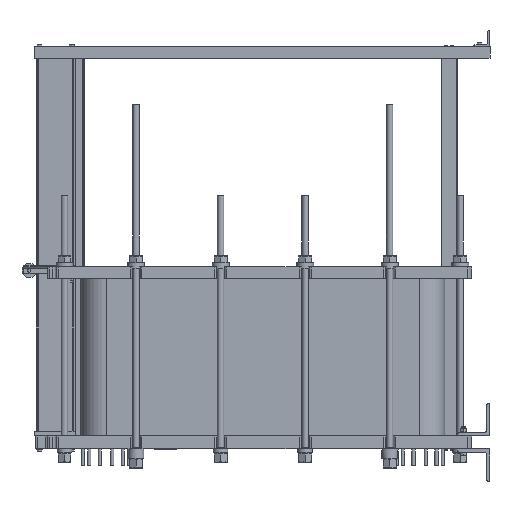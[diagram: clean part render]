
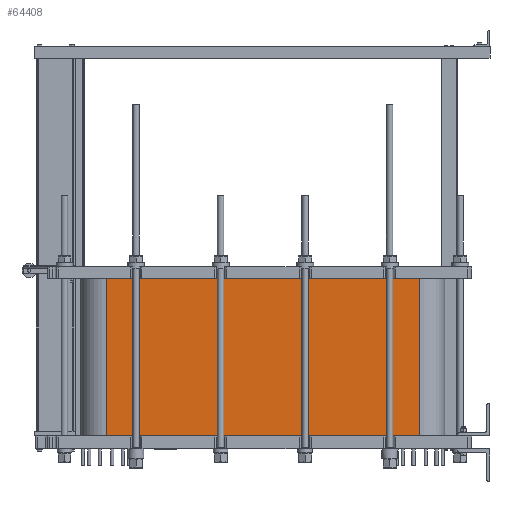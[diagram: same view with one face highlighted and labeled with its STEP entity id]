
A CAD part, left-side view. The second image highlights one B-rep face of the part: STEP entity #64408.
In plain terms, the highlighted planar face has unit normal (-1, 0, 0).
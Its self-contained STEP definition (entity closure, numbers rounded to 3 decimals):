
#35049=CARTESIAN_POINT('',(-375.0,-967.0,0.0));
#35050=VERTEX_POINT('',#35049);
#35058=CARTESIAN_POINT('',(-375.,967.0,0.0));
#35059=VERTEX_POINT('',#35058);
#35060=CARTESIAN_POINT('',(-375.0,-967.0,0.0));
#35061=DIRECTION('',(0.0,1.0,0.0));
#35062=VECTOR('',#35061,1934.0);
#35063=LINE('',#35060,#35062);
#35064=EDGE_CURVE('',#35050,#35059,#35063,.T.);
#64323=CARTESIAN_POINT('',(-375.,967.0,975.0));
#64324=VERTEX_POINT('',#64323);
#64334=CARTESIAN_POINT('',(-375.,967.0,0.0));
#64335=DIRECTION('',(0.0,0.0,1.0));
#64336=VECTOR('',#64335,975.0);
#64337=LINE('',#64334,#64336);
#64338=EDGE_CURVE('',#35059,#64324,#64337,.T.);
#64372=CARTESIAN_POINT('',(-375.0,-967.0,975.0));
#64373=VERTEX_POINT('',#64372);
#64381=CARTESIAN_POINT('',(-375.0,-967.0,0.0));
#64382=DIRECTION('',(0.0,0.0,1.0));
#64383=VECTOR('',#64382,975.0);
#64384=LINE('',#64381,#64383);
#64385=EDGE_CURVE('',#35050,#64373,#64384,.T.);
#64392=CARTESIAN_POINT('',(-375.0,-967.0,0.0));
#64393=DIRECTION('',(-1.0,0.0,0.0));
#64394=DIRECTION('',(0.0,0.0,1.0));
#64395=AXIS2_PLACEMENT_3D('',#64392,#64393,#64394);
#64396=PLANE('',#64395);
#64397=CARTESIAN_POINT('',(-375.,967.0,975.0));
#64398=DIRECTION('',(0.0,-1.0,0.0));
#64399=VECTOR('',#64398,1934.0);
#64400=LINE('',#64397,#64399);
#64401=EDGE_CURVE('',#64324,#64373,#64400,.T.);
#64402=ORIENTED_EDGE('',*,*,#64401,.F.);
#64403=ORIENTED_EDGE('',*,*,#64338,.F.);
#64404=ORIENTED_EDGE('',*,*,#35064,.F.);
#64405=ORIENTED_EDGE('',*,*,#64385,.T.);
#64406=EDGE_LOOP('',(#64402,#64403,#64404,#64405));
#64407=FACE_OUTER_BOUND('',#64406,.T.);
#64408=ADVANCED_FACE('',(#64407),#64396,.T.);
